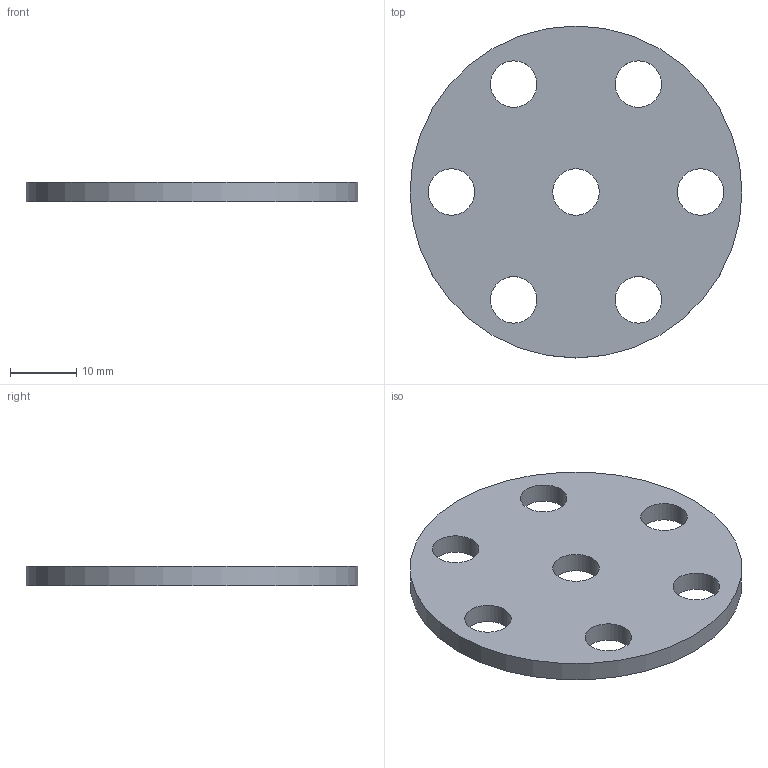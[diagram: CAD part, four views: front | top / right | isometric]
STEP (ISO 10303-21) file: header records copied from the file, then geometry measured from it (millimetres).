
FILE_DESCRIPTION(('STEP AP203'), '1');
FILE_NAME('ring2', '', ('UNSPECIFIED'), ('UNSPECIFIED'), 'ASCON STEP Converter 1.3', 'ASCON Math Kernel', '');
FILE_SCHEMA(('CONFIG_CONTROL_DESIGN'));
Length unit declared in the file: millimetre
Bounding box: 50 x 50 x 3 mm (x, y, z)
Volume: 5082.3 mm3; surface area: 4321.3 mm2
Topology: 1 solids, 1 shells, 10 faces, 24 edges, 16 vertices
Faces by surface type: cylinder 8, plane 2
Full cylindrical faces by diameter (mm): 7 x7, 50 x1
Entity records: 416 total; most frequent: DIRECTION 54, CARTESIAN_POINT 43, EDGE_LOOP 32, ORIENTED_EDGE 32, AXIS2_PLACEMENT_3D 27, FACE_BOUND 16, FACE_OUTER_BOUND 16, EDGE_CURVE 16
